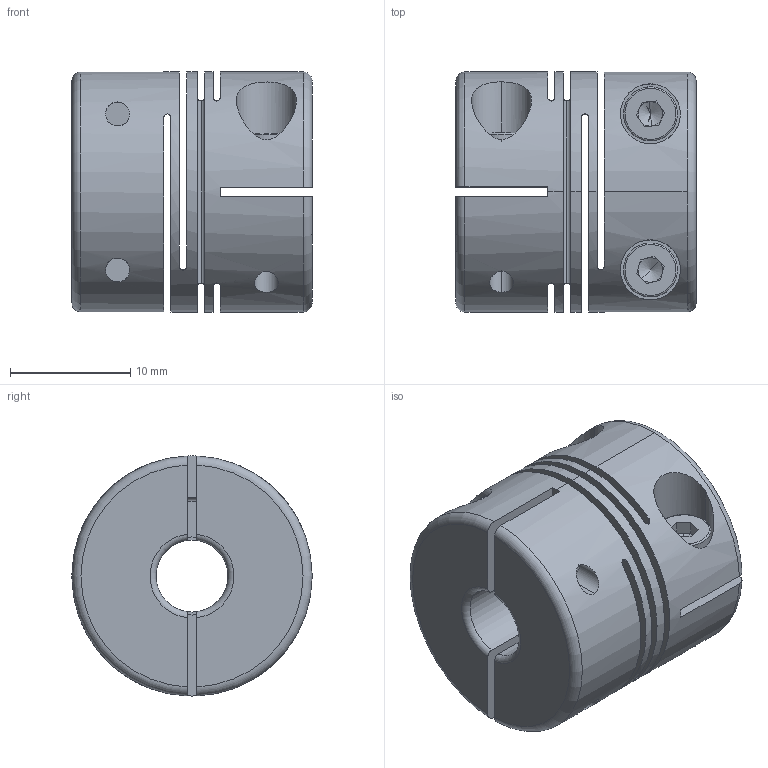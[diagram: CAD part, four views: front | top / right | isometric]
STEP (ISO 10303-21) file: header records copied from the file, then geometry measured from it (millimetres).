
FILE_DESCRIPTION (( 'STEP AP203' ), '1' );
FILE_NAME ('FACMS20-6x6.STEP', '2014-01-27T01:42:40', ( '123' ), ( '' ), 'SwSTEP 2.0', 'SolidWorks 2013', '' );
FILE_SCHEMA (( 'CONFIG_CONTROL_DESIGN' ));
Length unit declared in the file: millimetre
Products named in the file (1): FACMS20-6x6
Bounding box: 20 x 20 x 20 mm (x, y, z)
Surface area: 4841.5 mm2 (no closed solid volume)
Topology: 0 solids, 9 shells, 131 faces, 387 edges, 255 vertices
Faces by surface type: plane 61, cylinder 44, torus 18, cone 8
Entity records: 4933 total; most frequent: CARTESIAN_POINT 1372, DIRECTION 747, ORIENTED_EDGE 673, EDGE_CURVE 379, AXIS2_PLACEMENT_3D 284, VERTEX_POINT 255, LINE 179, VECTOR 179
